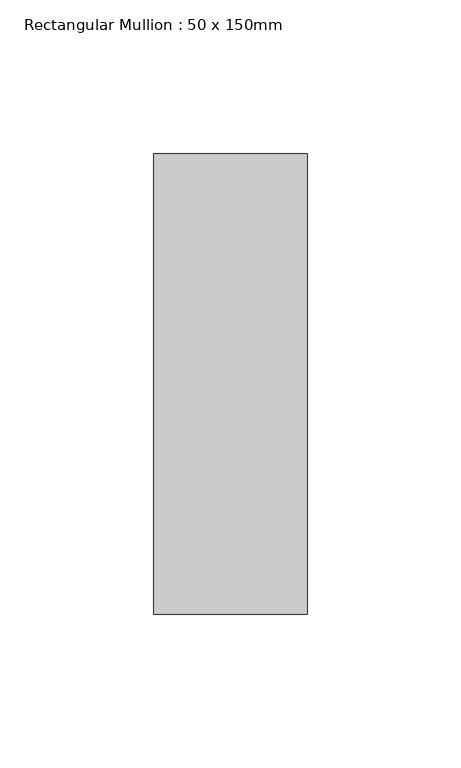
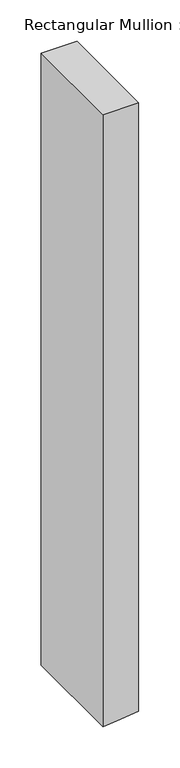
"""IFC4 building model written with IfcOpenShell, lengths in millimetres: member geometry, Rectangular Mullion : 50 x 150mm."""

from ifc_helpers import new_model, si_unit, frame, origin, place, context, project, spatial, polyline, outline, extrude, source, transform, mapped, element, save


def rectangular_mullion_50_x_150mm_290efe70(model_context):
    return source(origin(), model_context, "Body", "SweptSolid", [
        extrude(outline(polyline([(0.0, 25.0), (0.0, -25.0), (-905.2720882, -25.0), (-903.2613211, -5.0022633), (-900.2446015, 25.0), (0.0, 25.0)])), frame((0.0, -75.0, 0.0), z_axis=(0.0, 1.0, 0.0), x_axis=(0.0, 0.0, 1.0)), (0.0, 0.0, 1.0), 150.0),
    ])


if __name__ == "__main__":
    model = new_model("IFC4")
    model_context = context("Model", 3, world=origin())
    ifc_project = project(units=[si_unit("LENGTHUNIT", "METRE", prefix="MILLI")], contexts=[model_context])
    site = spatial("IfcSite", under=ifc_project)
    building = spatial("IfcBuilding", under=site)
    placement = place(None, origin())
    rectangular_mullion_50_x_150mm_shape = rectangular_mullion_50_x_150mm_290efe70(model_context)
    element("IfcMember", 1, ObjectType="Rectangular Mullion : 50 x 150mm", at=placement, inside=building, context=model_context, shape_type="MappedRepresentation", body=[
        mapped(rectangular_mullion_50_x_150mm_shape, transform((0.0, 0.0, 0.0), x_axis=(1.0, 0.0, 0.0), y_axis=(0.0, 1.0, 0.0), z_axis=(0.0, 0.0, 1.0))),
    ])
    save(model, "model.ifc")
